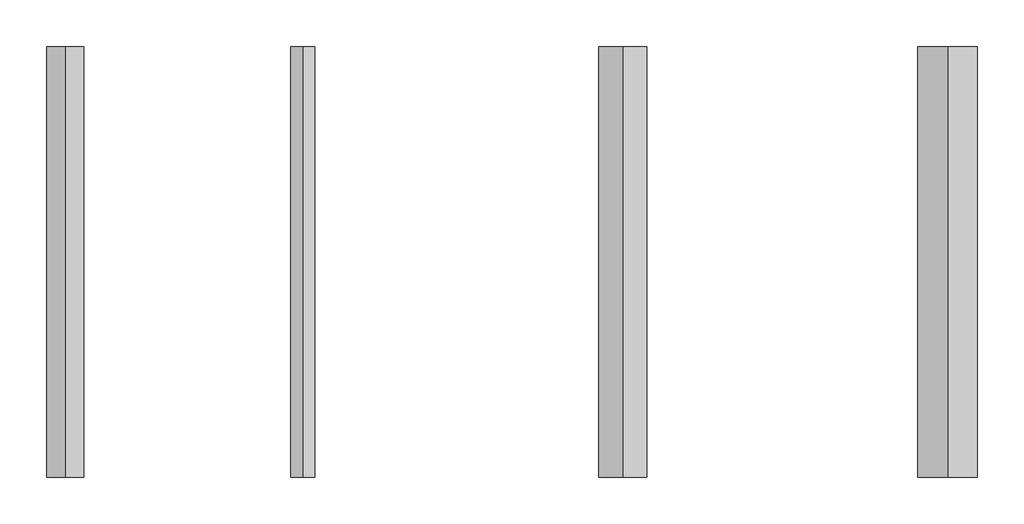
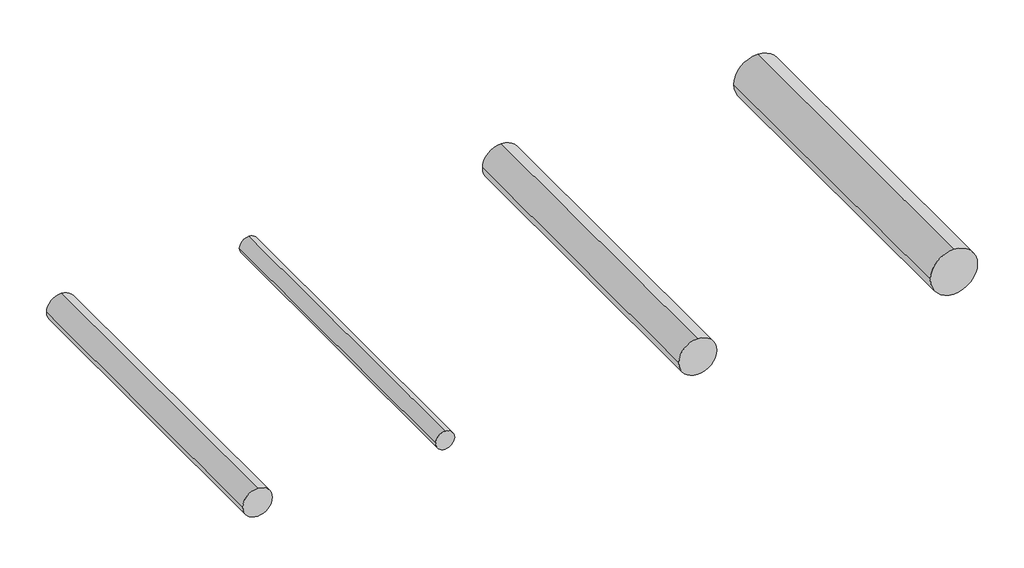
# One storey, incomplete: 4 pipe segments.
"""IFC4 building model written with IfcOpenShell, lengths in millimetres."""

import ifcopenshell
import ifcopenshell.guid

model = None  # the IFC model being written
_history = None  # IfcOwnerHistory: only IFC2X3 demands one
_inside = {}  # id of a spatial element -> (the spatial element, [elements in it])
_under = {}  # id of a project, library or spatial element -> (it, [spatial elements below it])
_declared = {}  # id of a project -> (the project, [libraries it declares])
_typed = {}  # id of a type object -> (the type object, [elements of that type])
_made_of = {}  # id of a material, layer set ... -> (it, [elements and type objects made of it])


def new_model(schema):
    """Start an empty IFC model of exactly this schema.

    Asked for "IFC4X3", IfcOpenShell would pick the latest addendum, in which some entities
    have other attributes; the version numbers below select the first issue.
    IFC2X3 requires an IfcOwnerHistory on every rooted entity: one is made here for all.
    """
    global model, _history
    if schema == "IFC4X3":
        model = ifcopenshell.file(schema_version=(4, 3, 0, 0))
    else:
        model = ifcopenshell.file(schema=schema)
    _inside.clear()
    _under.clear()
    _declared.clear()
    _typed.clear()
    _made_of.clear()
    _history = None
    if model.schema == "IFC2X3":
        org = make("IfcOrganization", Name="unknown")
        user = make(
            "IfcPersonAndOrganization",
            ThePerson=make("IfcPerson", FamilyName="unknown"),
            TheOrganization=org,
        )
        app = make(
            "IfcApplication",
            ApplicationDeveloper=org,
            Version="unknown",
            ApplicationFullName="unknown",
            ApplicationIdentifier="unknown",
        )
        _history = make(
            "IfcOwnerHistory",
            OwningUser=user,
            OwningApplication=app,
            ChangeAction="ADDED",
            CreationDate=0,
        )
    return model


def make(cls, **values):
    """One entity of the class cls with the attributes given. An attribute that is None is left unset."""
    return model.create_entity(
        cls, **{name: value for name, value in values.items() if value is not None}
    )


def rooted(cls, **values):
    """An entity with a GlobalId (a new one), such as an element, a storey or a relation."""
    return make(cls, GlobalId=ifcopenshell.guid.new(), OwnerHistory=_history, **values)


def si_unit(unit_type, name, prefix=None):
    """IfcSIUnit, for example si_unit("LENGTHUNIT", "METRE", prefix="MILLI")."""
    return make("IfcSIUnit", UnitType=unit_type, Prefix=prefix, Name=name)


def assignment(units):
    """IfcUnitAssignment: the units of a project."""
    return None if units is None else make("IfcUnitAssignment", Units=units)


def point(xyz):
    """IfcCartesianPoint."""
    return None if xyz is None else make("IfcCartesianPoint", Coordinates=xyz)


def direction(xyz):
    """IfcDirection."""
    return None if xyz is None else make("IfcDirection", DirectionRatios=xyz)


def frame(location, z_axis=None, x_axis=None):
    """IfcAxis2Placement3D, a coordinate frame: its origin and axes. An axis left out is left unset."""
    return make(
        "IfcAxis2Placement3D",
        Location=point(location),
        Axis=direction(z_axis),
        RefDirection=direction(x_axis),
    )


def frame_2d(location, x_axis=None):
    """IfcAxis2Placement2D, a coordinate frame in the plane: its origin and x axis."""
    return make(
        "IfcAxis2Placement2D", Location=point(location), RefDirection=direction(x_axis)
    )


def origin():
    """The frame at (0, 0, 0) with its axes left unset."""
    return frame((0.0, 0.0, 0.0))


def place(relative_to, where):
    """IfcLocalPlacement: puts the frame where relative to a parent placement (None: the world)."""
    return make(
        "IfcLocalPlacement", PlacementRelTo=relative_to, RelativePlacement=where
    )


def context(
    kind, dimensions, precision=None, world=None, true_north=None, identifier=None
):
    """IfcGeometricRepresentationContext, for example the 3D "Model" context."""
    return make(
        "IfcGeometricRepresentationContext",
        ContextIdentifier=identifier,
        ContextType=kind,
        CoordinateSpaceDimension=dimensions,
        Precision=precision,
        WorldCoordinateSystem=world,
        TrueNorth=true_north,
    )


def project(units=None, contexts=None):
    """IfcProject with its units and contexts."""
    return rooted(
        "IfcProject",
        Name="project",
        RepresentationContexts=contexts,
        UnitsInContext=assignment(units),
    )


def spatial(cls, under=None, at=None, **own):
    """A site, building, storey or space (cls), placed at a placement, below another one or the project."""
    s = rooted(cls, ObjectPlacement=at, **own)
    if under is not None:
        _under.setdefault(under.id(), (under, []))[1].append(s)
    return s


def circle_curve(where, radius):
    """IfcCircle in the frame where."""
    return make("IfcCircle", Position=where, Radius=radius)


def trimmed(basis, trim1, trim2, sense, master):
    """IfcTrimmedCurve: the piece of a basis curve between two trims."""
    return make(
        "IfcTrimmedCurve",
        BasisCurve=basis,
        Trim1=trim1,
        Trim2=trim2,
        SenseAgreement=sense,
        MasterRepresentation=master,
    )


def segment(curve, same_sense, transition):
    """IfcCompositeCurveSegment."""
    return make(
        "IfcCompositeCurveSegment",
        Transition=transition,
        SameSense=same_sense,
        ParentCurve=curve,
    )


def composite_curve(segments, self_intersect=None):
    """IfcCompositeCurve: segments joined end to end."""
    return make("IfcCompositeCurve", Segments=segments, SelfIntersect=self_intersect)


def outline(outer, holes=None, kind="AREA"):
    """IfcArbitraryClosedProfileDef: a profile drawn as a closed curve; with holes, ...WithVoids."""
    if holes is None:
        return make("IfcArbitraryClosedProfileDef", ProfileType=kind, OuterCurve=outer)
    return make(
        "IfcArbitraryProfileDefWithVoids",
        ProfileType=kind,
        OuterCurve=outer,
        InnerCurves=holes,
    )


def extrude(swept, where, along, depth):
    """IfcExtrudedAreaSolid: the profile swept, set in the frame where, extruded along a direction by depth."""
    return make(
        "IfcExtrudedAreaSolid",
        SweptArea=swept,
        Position=where,
        ExtrudedDirection=direction(along),
        Depth=depth,
    )


def shape(context_of_items, identifier, shape_type, items):
    """IfcShapeRepresentation: the items that make up one representation, for example the "Body"."""
    return make(
        "IfcShapeRepresentation",
        ContextOfItems=context_of_items,
        RepresentationIdentifier=identifier,
        RepresentationType=shape_type,
        Items=items,
    )


def made_of(thing, what):
    """Note that an element or type object is made of a material, layer set ...; save() writes the relation."""
    if what is not None:
        _made_of.setdefault(what.id(), (what, []))[1].append(thing)
    return thing


def element(
    cls,
    number,
    at=None,
    inside=None,
    cuts=None,
    type_object=None,
    material=None,
    context=None,
    identifier="Body",
    shape_type=None,
    held_by="IfcProductDefinitionShape",
    body=None,
    shapes=None,
    **own,
):
    """One element of the class cls, such as IfcWall. Its Tag is "e" and its number.

    at: its placement. inside: the storey or other place that contains it. cuts: it is an
    opening in that element (IfcRelVoidsElement). A single representation is given by context,
    identifier, shape_type and body (its items); several are given by shapes. held_by: the class
    of the entity that holds the representations. save() writes the other relations.
    """
    e = rooted(cls, Tag="e%d" % number, ObjectPlacement=at, **own)
    if body is not None:
        shapes = [shape(context, identifier, shape_type, body)]
    if shapes is not None:
        e.Representation = make(held_by, Representations=shapes)
    if inside is not None:
        _inside.setdefault(inside.id(), (inside, []))[1].append(e)
    if cuts is not None:
        rooted(
            "IfcRelVoidsElement", RelatingBuildingElement=cuts, RelatedOpeningElement=e
        )
    if type_object is not None:
        _typed.setdefault(type_object.id(), (type_object, []))[1].append(e)
    return made_of(e, material)


def aggregate(whole, parts):
    """IfcRelAggregates: a whole, such as a stair, and the parts it consists of."""
    return rooted("IfcRelAggregates", RelatingObject=whole, RelatedObjects=parts)


def save(model, path):
    """Write the relations noted so far, then the file.

    IfcRelAggregates (storeys below a building ...), IfcRelContainedInSpatialStructure (elements
    in a storey), IfcRelDefinesByType, IfcRelAssociatesMaterial and IfcRelDeclares: one each for
    every whole, place, type object, material and project.
    """
    for whole, parts in _under.values():
        aggregate(whole, parts)
    for where, things in _inside.values():
        rooted(
            "IfcRelContainedInSpatialStructure",
            RelatedElements=things,
            RelatingStructure=where,
        )
    for kind, things in _typed.values():
        rooted("IfcRelDefinesByType", RelatedObjects=things, RelatingType=kind)
    for what, things in _made_of.values():
        rooted("IfcRelAssociatesMaterial", RelatedObjects=things, RelatingMaterial=what)
    for by, libraries in _declared.values():
        rooted("IfcRelDeclares", RelatingContext=by, RelatedDefinitions=libraries)
    model.write(path)


model = new_model("IFC4")

# Units and contexts
model_context = context("Model", 3, world=origin())
ifc_project = project(units=[si_unit("LENGTHUNIT", "METRE", prefix="MILLI")], contexts=[model_context])

# Site, building, storey
site = spatial("IfcSite", under=ifc_project)
building = spatial("IfcBuilding", under=site)
storey = spatial("IfcBuildingStorey", under=building, Name="Amanco NF Vista de Inicio", Elevation=0.0)

# Pipe segments
placement = place(None, origin())
element("IfcPipeSegment", 1, ObjectType="AmancoWavin_Alcantarillado_S20", at=placement, inside=storey, context=model_context, shape_type="SweptSolid", body=[
    extrude(outline(composite_curve([segment(trimmed(circle_curve(frame_2d((-25.0, -1824.7778744)), 200.2), [point((-25.0, -2024.9778744))], [point((-225.2, -1824.7778744))], False, "CARTESIAN"), True, "CONTINUOUS"), segment(trimmed(circle_curve(frame_2d((-25.0, -1824.7778744)), 200.2), [point((-225.2, -1824.7778744))], [point((-25.0, -1624.5778744))], False, "CARTESIAN"), True, "CONTINUOUS"), segment(trimmed(circle_curve(frame_2d((-25.0, -1824.7778744)), 200.2), [point((-25.0, -1624.5778744))], [point((175.2, -1824.7778744))], False, "CARTESIAN"), True, "CONTINUOUS"), segment(trimmed(circle_curve(frame_2d((-25.0, -1824.7778744)), 200.2), [point((175.2, -1824.7778744))], [point((-25.0, -2024.9778744))], False, "CARTESIAN"), True, "CONTINUOUS")], self_intersect=False)), frame((0.0, 8135.3015014, 0.0), z_axis=(0.0, 1.0, 0.0), x_axis=(0.0, 0.0, 1.0)), (0.0, 0.0, 1.0), 3600.0),
])
element("IfcPipeSegment", 2, ObjectType="AmancoWavin_Alcantarillado_S16.5", at=placement, inside=storey, context=model_context, shape_type="SweptSolid", body=[
    extrude(outline(composite_curve([segment(trimmed(circle_curve(frame_2d((-25.0, -4499.6902279)), 100.1), [point((-25.0, -4599.7902279))], [point((-125.1, -4499.6902279))], False, "CARTESIAN"), True, "CONTINUOUS"), segment(trimmed(circle_curve(frame_2d((-25.0, -4499.6902279)), 100.1), [point((-125.1, -4499.6902279))], [point((-25.0, -4399.5902279))], False, "CARTESIAN"), True, "CONTINUOUS"), segment(trimmed(circle_curve(frame_2d((-25.0, -4499.6902279)), 100.1), [point((-25.0, -4399.5902279))], [point((75.1, -4499.6902279))], False, "CARTESIAN"), True, "CONTINUOUS"), segment(trimmed(circle_curve(frame_2d((-25.0, -4499.6902279)), 100.1), [point((75.1, -4499.6902279))], [point((-25.0, -4599.7902279))], False, "CARTESIAN"), True, "CONTINUOUS")], self_intersect=False)), frame((0.0, 8135.3015014, 0.0), z_axis=(0.0, 1.0, 0.0), x_axis=(0.0, 0.0, 1.0)), (0.0, 0.0, 1.0), 3600.0),
])
element("IfcPipeSegment", 3, ObjectType="AmancoWavin_Alcantarillado_S25", at=placement, inside=storey, context=model_context, shape_type="SweptSolid", body=[
    extrude(outline(composite_curve([segment(trimmed(circle_curve(frame_2d((-25.0, 888.6165507)), 250.2), [point((-25.0, 638.4165507))], [point((-275.2, 888.6165507))], False, "CARTESIAN"), True, "CONTINUOUS"), segment(trimmed(circle_curve(frame_2d((-25.0, 888.6165507)), 250.2), [point((-275.2, 888.6165507))], [point((-25.0, 1138.8165507))], False, "CARTESIAN"), True, "CONTINUOUS"), segment(trimmed(circle_curve(frame_2d((-25.0, 888.6165507)), 250.2), [point((-25.0, 1138.8165507))], [point((225.2, 888.6165507))], False, "CARTESIAN"), True, "CONTINUOUS"), segment(trimmed(circle_curve(frame_2d((-25.0, 888.6165507)), 250.2), [point((225.2, 888.6165507))], [point((-25.0, 638.4165507))], False, "CARTESIAN"), True, "CONTINUOUS")], self_intersect=False)), frame((0.0, 8135.3015014, 0.0), z_axis=(0.0, 1.0, 0.0), x_axis=(0.0, 0.0, 1.0)), (0.0, 0.0, 1.0), 3600.0),
])
element("IfcPipeSegment", 4, ObjectType="AmancoWavin_Novafort_160mm-900mm", at=placement, inside=storey, context=model_context, shape_type="SweptSolid", body=[
    extrude(outline(composite_curve([segment(trimmed(circle_curve(frame_2d((-25.0, -6486.657622)), 156.0), [point((-25.0, -6642.657622))], [point((-181.0, -6486.657622))], False, "CARTESIAN"), True, "CONTINUOUS"), segment(trimmed(circle_curve(frame_2d((-25.0, -6486.657622)), 156.0), [point((-181.0, -6486.657622))], [point((-25.0, -6330.657622))], False, "CARTESIAN"), True, "CONTINUOUS"), segment(trimmed(circle_curve(frame_2d((-25.0, -6486.657622)), 156.0), [point((-25.0, -6330.657622))], [point((131.0, -6486.657622))], False, "CARTESIAN"), True, "CONTINUOUS"), segment(trimmed(circle_curve(frame_2d((-25.0, -6486.657622)), 156.0), [point((131.0, -6486.657622))], [point((-25.0, -6642.657622))], False, "CARTESIAN"), True, "CONTINUOUS")], self_intersect=False)), frame((0.0, 8135.3015014, 0.0), z_axis=(0.0, 1.0, 0.0), x_axis=(0.0, 0.0, 1.0)), (0.0, 0.0, 1.0), 3600.0),
])

save(model, "model.ifc")
